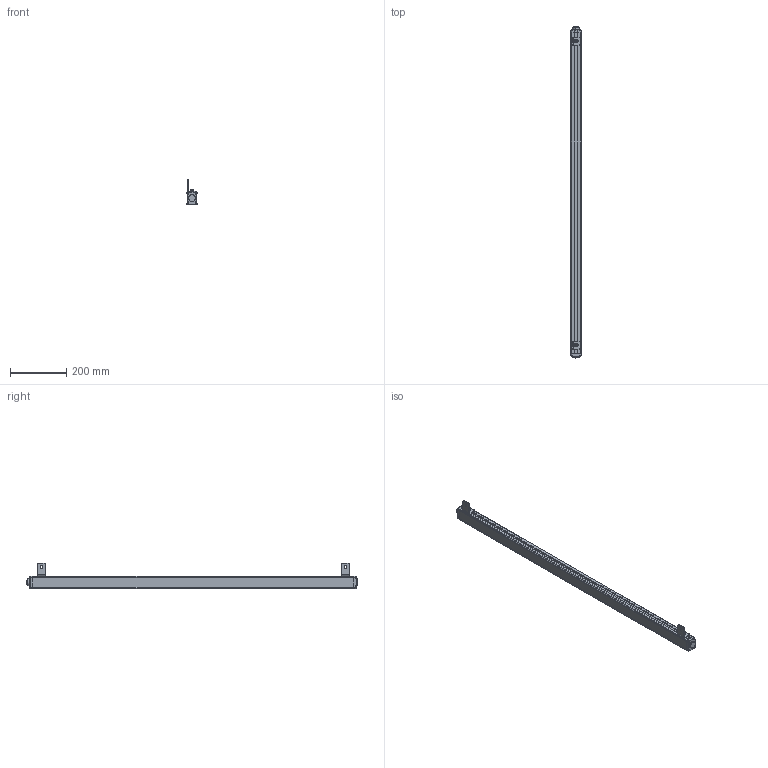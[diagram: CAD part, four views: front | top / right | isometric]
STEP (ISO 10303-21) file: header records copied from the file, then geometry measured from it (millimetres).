
FILE_DESCRIPTION((''),'2;1');
FILE_NAME('ESCL-00_ASM','2021-07-17T11:08:59',('18720616900'),(''),'CREO PARAMETRIC BY PTC INC, 2019010','CREO PARAMETRIC BY PTC INC, 2019010','');
FILE_SCHEMA(('CONFIG_CONTROL_DESIGN'));
Products named in the file (12): ESCL-00; ESCL-3-SOLID1000; ESCL-4-SOLID1000; HKCT1_-4-SOLID1; L10001; M6-8--0001; M6-1--00; M6-1-00; 00; M6-80001_ASM; L1--0001_ASM; ESCL-00_ASM
Assembly tree (12 placements, depth 4):
  ESCL-00_ASM
    ESCL-00
    ESCL-3-SOLID1000
    ESCL-4-SOLID1000
    HKCT1_-4-SOLID1
    L1--0001_ASM  x2
      L10001
      M6-80001_ASM
        M6-8--0001
        M6-1--00
        M6-1-00
        00
Bounding box: 36.1 x 1185.1 x 91.11 mm (x, y, z)
Volume: 1692640.6 mm3; surface area: 252862.6 mm2
Topology: 14 solids, 14 shells, 625 faces, 1645 edges, 1070 vertices
Faces by surface type: plane 226, cylinder 208, cone 78, bspline 66, torus 47
Entity records: 76177 total; most frequent: CARTESIAN_POINT 63991, ORIENTED_EDGE 2664, DIRECTION 2275, EDGE_CURVE 1332, VERTEX_POINT 872, AXIS2_PLACEMENT_3D 816, VECTOR 643, LINE 643
